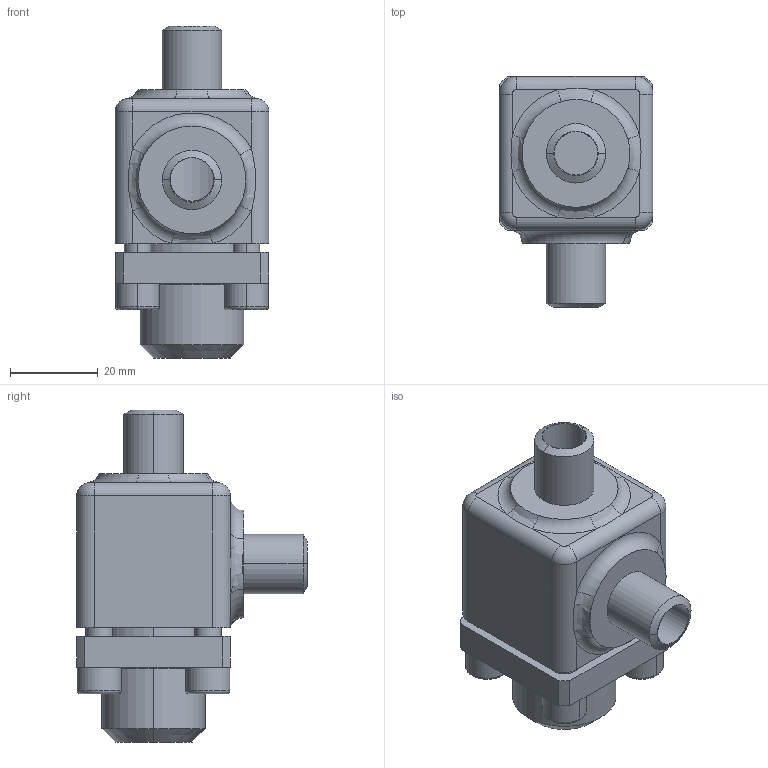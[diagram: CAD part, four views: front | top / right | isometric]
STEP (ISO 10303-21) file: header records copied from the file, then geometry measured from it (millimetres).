
FILE_DESCRIPTION (( 'STEP AP214' ), '1' );
FILE_NAME ('RV98400-DN008_R1_PS40.STEP', '2006-05-02T09:30:46', ( 'Herr Grams' ), ( 'AWP GmbH' ), 'SwSTEP 2.0', 'SolidWorks 2002296', '' );
FILE_SCHEMA (( 'AUTOMOTIVE_DESIGN' ));
Length unit declared in the file: millimetre
Products named in the file (5): RV98400-DN008_R1_PS40; Gehäuse96400E07-DN08_PS40_R1_Standard; RV98300E10_Deck+Schr-DN6-15_Standard; Deckel98300E10-DN6-15_PS40_Standard; Zylinderschraube-DIN912_M 6x 18
Assembly tree (7 placements, depth 3):
  RV98400-DN008_R1_PS40
    Gehäuse96400E07-DN08_PS40_R1_Standard
    RV98300E10_Deck+Schr-DN6-15_Standard
      Deckel98300E10-DN6-15_PS40_Standard
      Zylinderschraube-DIN912_M 6x 18  x4
Bounding box: 35 x 52.5 x 75.5 mm (x, y, z)
Volume: 49370.4 mm3; surface area: 20141.9 mm2
Topology: 6 solids, 6 shells, 173 faces, 382 edges, 236 vertices
Faces by surface type: plane 67, cylinder 62, torus 21, cone 16, bspline 7
Entity records: 8143 total; most frequent: CARTESIAN_POINT 4812, DIRECTION 649, ORIENTED_EDGE 536, AXIS2_PLACEMENT_3D 271, EDGE_CURVE 268, VERTEX_POINT 164, CIRCLE 148, EDGE_LOOP 140
